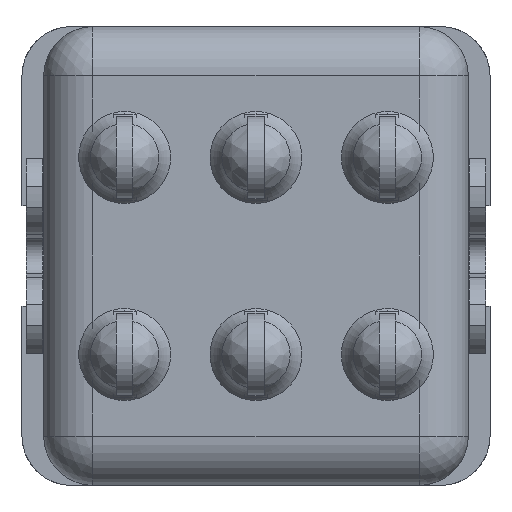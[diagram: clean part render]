
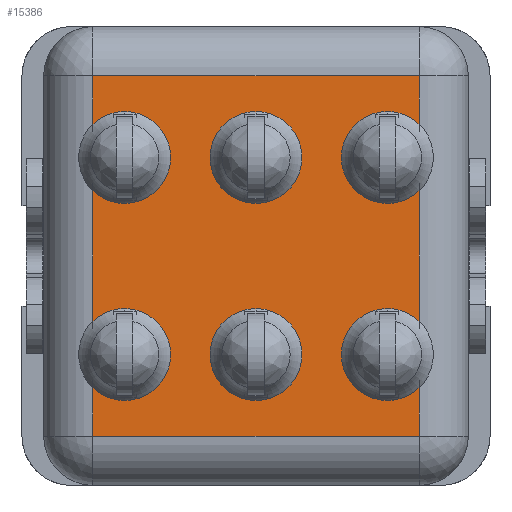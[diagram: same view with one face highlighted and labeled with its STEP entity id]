
A CAD part, front view. The second image highlights one B-rep face of the part: STEP entity #15386.
In plain terms, the highlighted planar face has unit normal (0, -1, 0).
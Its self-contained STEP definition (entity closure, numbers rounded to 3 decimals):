
#1947=CARTESIAN_POINT('',(-4.,-6.5,-3.));
#1948=DIRECTION('',(0.,1.,0.));
#1949=DIRECTION('',(0.,0.,-1.));
#1950=AXIS2_PLACEMENT_3D('',#1947,#1948,#1949);
#1952=CARTESIAN_POINT('',(-4.,-6.5,-3.));
#1953=DIRECTION('',(0.,1.,0.));
#1954=DIRECTION('',(0.,0.,1.));
#1955=AXIS2_PLACEMENT_3D('',#1952,#1953,#1954);
#1957=CARTESIAN_POINT('',(-4.,-6.5,-3.));
#1958=DIRECTION('',(0.,1.,0.));
#1959=DIRECTION('',(-0.689,0.,0.724));
#1960=AXIS2_PLACEMENT_3D('',#1957,#1958,#1959);
#1962=DIRECTION('',(0.,0.,1.));
#1963=VECTOR('',#1962,3.971);
#1964=CARTESIAN_POINT('',(-4.965,-6.5,-1.986));
#1965=LINE('',#1964,#1963);
#1966=CARTESIAN_POINT('',(-4.,-6.5,3.));
#1967=DIRECTION('',(0.,1.,0.));
#1968=DIRECTION('',(0.,0.,-1.));
#1969=AXIS2_PLACEMENT_3D('',#1966,#1967,#1968);
#1971=CARTESIAN_POINT('',(-4.,-6.5,3.));
#1972=DIRECTION('',(0.,1.,0.));
#1973=DIRECTION('',(0.,0.,1.));
#1974=AXIS2_PLACEMENT_3D('',#1971,#1972,#1973);
#1976=CARTESIAN_POINT('',(-4.,-6.5,3.));
#1977=DIRECTION('',(0.,1.,0.));
#1978=DIRECTION('',(-0.689,0.,0.724));
#1979=AXIS2_PLACEMENT_3D('',#1976,#1977,#1978);
#1981=DIRECTION('',(0.,0.,1.));
#1982=VECTOR('',#1981,1.471);
#1983=CARTESIAN_POINT('',(-4.965,-6.5,4.014));
#1984=LINE('',#1983,#1982);
#1985=DIRECTION('',(1.,0.,0.));
#1986=VECTOR('',#1985,9.93);
#1987=CARTESIAN_POINT('',(-4.965,-6.5,5.485));
#1988=LINE('',#1987,#1986);
#1989=DIRECTION('',(0.,0.,-1.));
#1990=VECTOR('',#1989,1.471);
#1991=CARTESIAN_POINT('',(4.965,-6.5,5.485));
#1992=LINE('',#1991,#1990);
#1993=CARTESIAN_POINT('',(4.,-6.5,3.));
#1994=DIRECTION('',(0.,1.,0.));
#1995=DIRECTION('',(0.,0.,1.));
#1996=AXIS2_PLACEMENT_3D('',#1993,#1994,#1995);
#1998=CARTESIAN_POINT('',(4.,-6.5,3.));
#1999=DIRECTION('',(0.,1.,0.));
#2000=DIRECTION('',(0.,0.,-1.));
#2001=AXIS2_PLACEMENT_3D('',#1998,#1999,#2000);
#2003=CARTESIAN_POINT('',(4.,-6.5,3.));
#2004=DIRECTION('',(0.,1.,0.));
#2005=DIRECTION('',(0.689,0.,-0.724));
#2006=AXIS2_PLACEMENT_3D('',#2003,#2004,#2005);
#2008=DIRECTION('',(0.,0.,-1.));
#2009=VECTOR('',#2008,3.971);
#2010=CARTESIAN_POINT('',(4.965,-6.5,1.986));
#2011=LINE('',#2010,#2009);
#2012=CARTESIAN_POINT('',(4.,-6.5,-3.));
#2013=DIRECTION('',(0.,1.,0.));
#2014=DIRECTION('',(0.,0.,1.));
#2015=AXIS2_PLACEMENT_3D('',#2012,#2013,#2014);
#2017=CARTESIAN_POINT('',(4.,-6.5,-3.));
#2018=DIRECTION('',(0.,1.,0.));
#2019=DIRECTION('',(0.,0.,-1.));
#2020=AXIS2_PLACEMENT_3D('',#2017,#2018,#2019);
#2022=CARTESIAN_POINT('',(4.,-6.5,-3.));
#2023=DIRECTION('',(0.,1.,0.));
#2024=DIRECTION('',(0.689,0.,-0.724));
#2025=AXIS2_PLACEMENT_3D('',#2022,#2023,#2024);
#2027=DIRECTION('',(0.,0.,-1.));
#2028=VECTOR('',#2027,1.471);
#2029=CARTESIAN_POINT('',(4.965,-6.5,-4.014));
#2030=LINE('',#2029,#2028);
#2031=DIRECTION('',(-1.,0.,0.));
#2032=VECTOR('',#2031,9.93);
#2033=CARTESIAN_POINT('',(4.965,-6.5,-5.485));
#2034=LINE('',#2033,#2032);
#2035=DIRECTION('',(0.,0.,1.));
#2036=VECTOR('',#2035,1.471);
#2037=CARTESIAN_POINT('',(-4.965,-6.5,-5.485));
#2038=LINE('',#2037,#2036);
#2039=CARTESIAN_POINT('',(0.,-6.5,3.));
#2040=DIRECTION('',(0.,1.,0.));
#2041=DIRECTION('',(0.,0.,1.));
#2042=AXIS2_PLACEMENT_3D('',#2039,#2040,#2041);
#2044=CARTESIAN_POINT('',(0.,-6.5,3.));
#2045=DIRECTION('',(0.,1.,0.));
#2046=DIRECTION('',(0.,0.,-1.));
#2047=AXIS2_PLACEMENT_3D('',#2044,#2045,#2046);
#2049=CARTESIAN_POINT('',(0.,-6.5,-3.));
#2050=DIRECTION('',(0.,1.,0.));
#2051=DIRECTION('',(0.,0.,1.));
#2052=AXIS2_PLACEMENT_3D('',#2049,#2050,#2051);
#2054=CARTESIAN_POINT('',(0.,-6.5,-3.));
#2055=DIRECTION('',(0.,1.,0.));
#2056=DIRECTION('',(0.,0.,-1.));
#2057=AXIS2_PLACEMENT_3D('',#2054,#2055,#2056);
#11363=CARTESIAN_POINT('',(4.965,-6.5,-5.485));
#11364=CARTESIAN_POINT('',(-4.965,-6.5,-5.485));
#11365=VERTEX_POINT('',#11363);
#11366=VERTEX_POINT('',#11364);
#11373=CARTESIAN_POINT('',(-4.965,-6.5,5.485));
#11374=CARTESIAN_POINT('',(4.965,-6.5,5.485));
#11375=VERTEX_POINT('',#11373);
#11376=VERTEX_POINT('',#11374);
#13129=CARTESIAN_POINT('',(-4.,-6.5,4.4));
#13130=CARTESIAN_POINT('',(-4.,-6.5,1.6));
#13131=VERTEX_POINT('',#13129);
#13132=VERTEX_POINT('',#13130);
#13133=CARTESIAN_POINT('',(-4.965,-6.5,1.986));
#13134=VERTEX_POINT('',#13133);
#13135=CARTESIAN_POINT('',(-4.965,-6.5,4.014));
#13136=VERTEX_POINT('',#13135);
#13163=CARTESIAN_POINT('',(0.,-6.5,4.4));
#13164=CARTESIAN_POINT('',(0.,-6.5,1.6));
#13165=VERTEX_POINT('',#13163);
#13166=VERTEX_POINT('',#13164);
#13193=CARTESIAN_POINT('',(4.,-6.5,4.4));
#13194=CARTESIAN_POINT('',(4.965,-6.5,4.014));
#13195=VERTEX_POINT('',#13193);
#13196=VERTEX_POINT('',#13194);
#13197=CARTESIAN_POINT('',(4.965,-6.5,1.986));
#13198=CARTESIAN_POINT('',(4.,-6.5,1.6));
#13199=VERTEX_POINT('',#13197);
#13200=VERTEX_POINT('',#13198);
#13227=CARTESIAN_POINT('',(4.,-6.5,-1.6));
#13228=CARTESIAN_POINT('',(4.965,-6.5,-1.986));
#13229=VERTEX_POINT('',#13227);
#13230=VERTEX_POINT('',#13228);
#13231=CARTESIAN_POINT('',(4.965,-6.5,-4.014));
#13232=CARTESIAN_POINT('',(4.,-6.5,-4.4));
#13233=VERTEX_POINT('',#13231);
#13234=VERTEX_POINT('',#13232);
#13261=CARTESIAN_POINT('',(0.,-6.5,-1.6));
#13262=CARTESIAN_POINT('',(0.,-6.5,-4.4));
#13263=VERTEX_POINT('',#13261);
#13264=VERTEX_POINT('',#13262);
#13291=CARTESIAN_POINT('',(-4.,-6.5,-4.4));
#13292=CARTESIAN_POINT('',(-4.965,-6.5,-4.014));
#13293=VERTEX_POINT('',#13291);
#13294=VERTEX_POINT('',#13292);
#13295=CARTESIAN_POINT('',(-4.965,-6.5,-1.986));
#13296=CARTESIAN_POINT('',(-4.,-6.5,-1.6));
#13297=VERTEX_POINT('',#13295);
#13298=VERTEX_POINT('',#13296);
#15332=CARTESIAN_POINT('',(-6.465,-6.5,-6.985));
#15333=DIRECTION('',(0.,-1.,0.));
#15334=DIRECTION('',(1.,0.,0.));
#15335=AXIS2_PLACEMENT_3D('',#15332,#15333,#15334);
#15336=PLANE('',#15335);
#15337=ORIENTED_EDGE('',*,*,#15310,.F.);
#15339=ORIENTED_EDGE('',*,*,#15338,.F.);
#15340=ORIENTED_EDGE('',*,*,#15313,.F.);
#15341=ORIENTED_EDGE('',*,*,#15289,.T.);
#15343=ORIENTED_EDGE('',*,*,#15342,.F.);
#15345=ORIENTED_EDGE('',*,*,#15344,.F.);
#15347=ORIENTED_EDGE('',*,*,#15346,.F.);
#15348=ORIENTED_EDGE('',*,*,#15285,.T.);
#15350=ORIENTED_EDGE('',*,*,#15349,.T.);
#15352=ORIENTED_EDGE('',*,*,#15351,.T.);
#15354=ORIENTED_EDGE('',*,*,#15353,.F.);
#15356=ORIENTED_EDGE('',*,*,#15355,.F.);
#15358=ORIENTED_EDGE('',*,*,#15357,.F.);
#15360=ORIENTED_EDGE('',*,*,#15359,.T.);
#15362=ORIENTED_EDGE('',*,*,#15361,.F.);
#15364=ORIENTED_EDGE('',*,*,#15363,.F.);
#15366=ORIENTED_EDGE('',*,*,#15365,.F.);
#15368=ORIENTED_EDGE('',*,*,#15367,.T.);
#15370=ORIENTED_EDGE('',*,*,#15369,.T.);
#15371=ORIENTED_EDGE('',*,*,#15278,.T.);
#15372=EDGE_LOOP('',(#15337,#15339,#15340,#15341,#15343,#15345,#15347,#15348,
#15350,#15352,#15354,#15356,#15358,#15360,#15362,#15364,#15366,#15368,#15370,
#15371));
#15373=FACE_OUTER_BOUND('',#15372,.F.);
#15375=ORIENTED_EDGE('',*,*,#15374,.F.);
#15377=ORIENTED_EDGE('',*,*,#15376,.F.);
#15378=EDGE_LOOP('',(#15375,#15377));
#15379=FACE_BOUND('',#15378,.F.);
#15381=ORIENTED_EDGE('',*,*,#15380,.F.);
#15383=ORIENTED_EDGE('',*,*,#15382,.F.);
#15384=EDGE_LOOP('',(#15381,#15383));
#15385=FACE_BOUND('',#15384,.F.);
#15386=ADVANCED_FACE('',(#15373,#15379,#15385),#15336,.T.);
#1951=CIRCLE('',#1950,1.4);
#1956=CIRCLE('',#1955,1.4);
#1961=CIRCLE('',#1960,1.4);
#1970=CIRCLE('',#1969,1.4);
#1975=CIRCLE('',#1974,1.4);
#1980=CIRCLE('',#1979,1.4);
#1997=CIRCLE('',#1996,1.4);
#2002=CIRCLE('',#2001,1.4);
#2007=CIRCLE('',#2006,1.4);
#2016=CIRCLE('',#2015,1.4);
#2021=CIRCLE('',#2020,1.4);
#2026=CIRCLE('',#2025,1.4);
#2043=CIRCLE('',#2042,1.4);
#2048=CIRCLE('',#2047,1.4);
#2053=CIRCLE('',#2052,1.4);
#2058=CIRCLE('',#2057,1.4);
#15278=EDGE_CURVE('',#11366,#13294,#2038,.T.);
#15285=EDGE_CURVE('',#13136,#11375,#1984,.T.);
#15289=EDGE_CURVE('',#13297,#13134,#1965,.T.);
#15310=EDGE_CURVE('',#13293,#13294,#1951,.T.);
#15313=EDGE_CURVE('',#13297,#13298,#1961,.T.);
#15338=EDGE_CURVE('',#13298,#13293,#1956,.T.);
#15342=EDGE_CURVE('',#13132,#13134,#1970,.T.);
#15344=EDGE_CURVE('',#13131,#13132,#1975,.T.);
#15346=EDGE_CURVE('',#13136,#13131,#1980,.T.);
#15349=EDGE_CURVE('',#11375,#11376,#1988,.T.);
#15351=EDGE_CURVE('',#11376,#13196,#1992,.T.);
#15353=EDGE_CURVE('',#13195,#13196,#1997,.T.);
#15355=EDGE_CURVE('',#13200,#13195,#2002,.T.);
#15357=EDGE_CURVE('',#13199,#13200,#2007,.T.);
#15359=EDGE_CURVE('',#13199,#13230,#2011,.T.);
#15361=EDGE_CURVE('',#13229,#13230,#2016,.T.);
#15363=EDGE_CURVE('',#13234,#13229,#2021,.T.);
#15365=EDGE_CURVE('',#13233,#13234,#2026,.T.);
#15367=EDGE_CURVE('',#13233,#11365,#2030,.T.);
#15369=EDGE_CURVE('',#11365,#11366,#2034,.T.);
#15374=EDGE_CURVE('',#13165,#13166,#2043,.T.);
#15376=EDGE_CURVE('',#13166,#13165,#2048,.T.);
#15380=EDGE_CURVE('',#13263,#13264,#2053,.T.);
#15382=EDGE_CURVE('',#13264,#13263,#2058,.T.);
